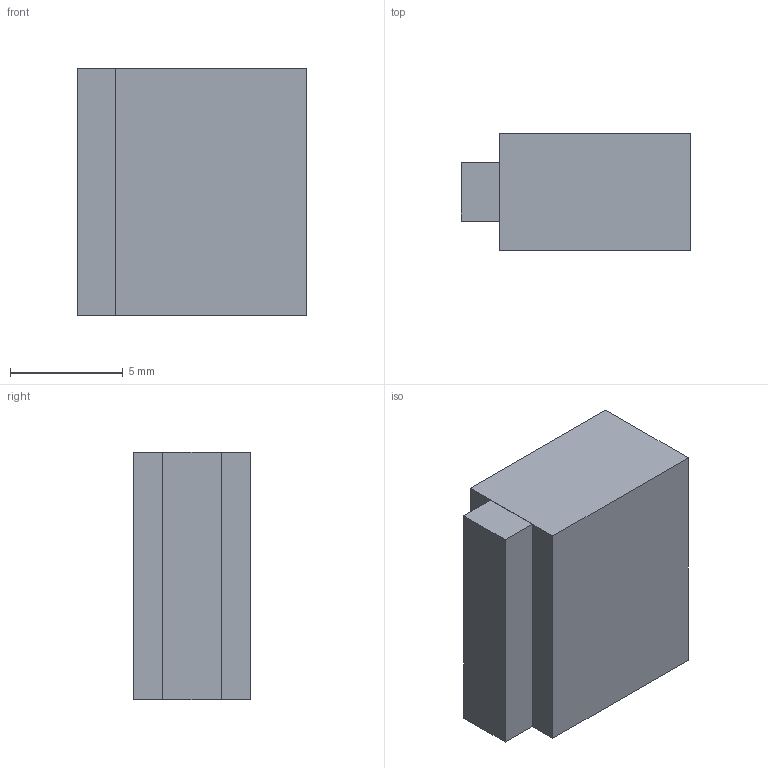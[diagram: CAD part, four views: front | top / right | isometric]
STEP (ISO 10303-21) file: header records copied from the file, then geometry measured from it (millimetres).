
FILE_DESCRIPTION(('AMASS_XT30UPB-F placeholder'),'2;1');
FILE_NAME('AMASS_XT30UPB-F','2026-10-07T23:53:41',(''),(''),'step_boxes.py','','');
FILE_SCHEMA(('AUTOMOTIVE_DESIGN { 1 0 10303 214 1 1 1 1 }'));
Length unit declared in the file: millimetre
Products named in the file (1): AMASS_XT30UPB-F
Bounding box: 10.2 x 5.2 x 11 mm (x, y, z)
Volume: 534.8 mm3; surface area: 493.2 mm2
Topology: 2 solids, 2 shells, 12 faces, 24 edges, 16 vertices
Faces by surface type: plane 12
Entity records: 316 total; most frequent: CARTESIAN_POINT 53, DIRECTION 50, ORIENTED_EDGE 48, VECTOR 24, LINE 24, EDGE_CURVE 24, VERTEX_POINT 16, AXIS2_PLACEMENT_3D 13
